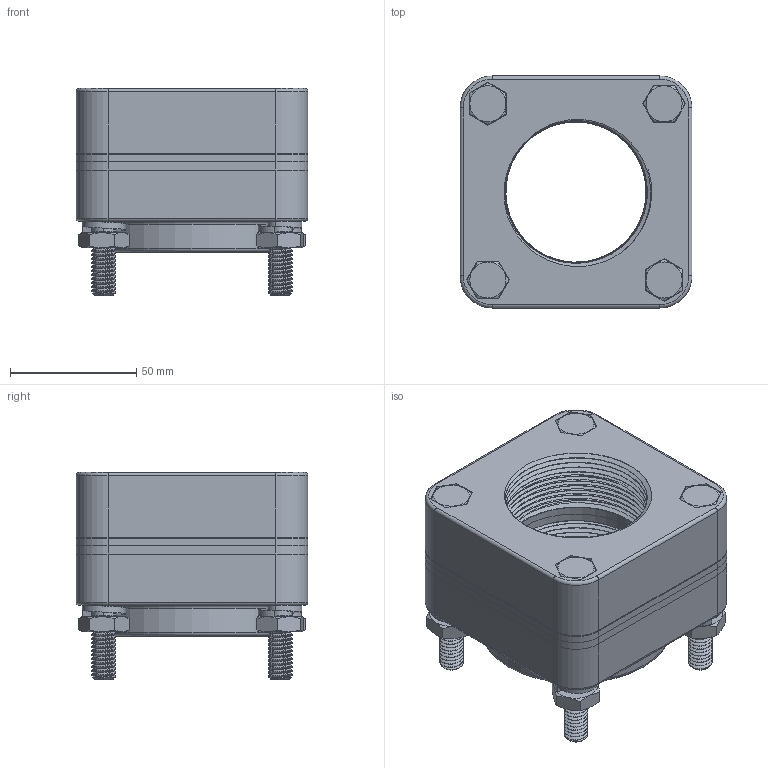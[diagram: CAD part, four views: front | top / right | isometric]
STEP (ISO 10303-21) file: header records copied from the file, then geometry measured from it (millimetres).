
FILE_DESCRIPTION(/* description */ ('Alibre Inc.'),/* implementation_level */ '2;1');
FILE_NAME(/* name */ 'export0',/* time_stamp */ '2017-09-11T10:27:59-04:00',/* author */ (''),/* organization */ (''),/* preprocessor_version */ 'ST-DEVELOPER v14',/* originating_system */ 'Alibre',/* authorisation */ '');
FILE_SCHEMA (('CONFIG_CONTROL_DESIGN'));
Length unit declared in the file: inch
Products named in the file (7): ID_1; ID_2; ID_3; ID_4
Bounding box: 91.95 x 91.95 x 82.15 mm (x, y, z)
Volume: 336013.5 mm3; surface area: 112315.7 mm2
Topology: 16 solids, 16 shells, 583 faces, 1504 edges, 962 vertices
Faces by surface type: cylinder 227, cone 179, plane 131, bspline 36, torus 10
Full cylindrical faces by diameter (mm): 7.62 x8, 10.49 x8, 57.15 x2, 76.2 x1
Entity records: 70389 total; most frequent: CARTESIAN_POINT 63854, ORIENTED_EDGE 1324, DIRECTION 893, EDGE_CURVE 662, VERTEX_POINT 437, AXIS2_PLACEMENT_3D 362, EDGE_LOOP 313, FACE_BOUND 313
